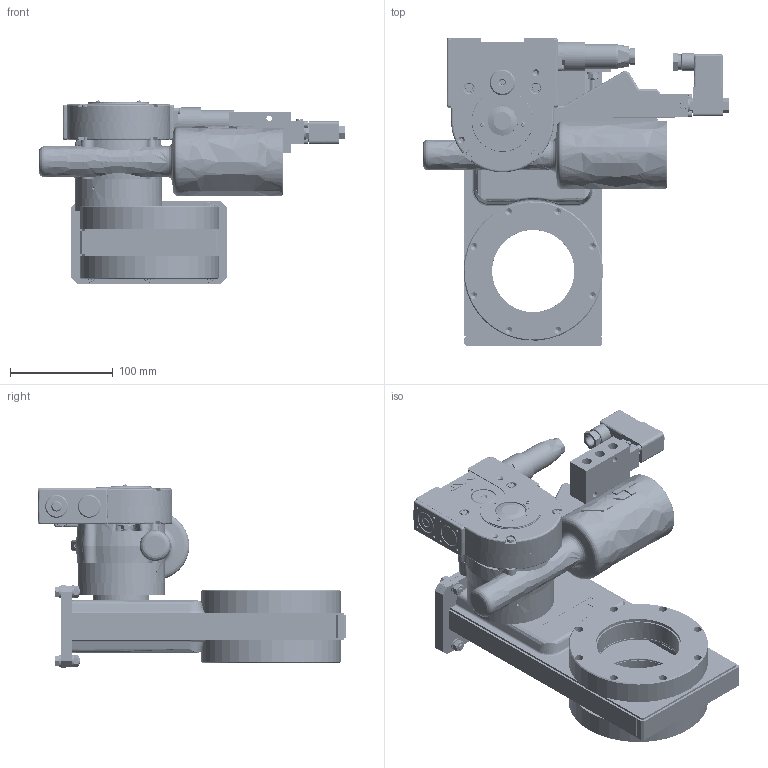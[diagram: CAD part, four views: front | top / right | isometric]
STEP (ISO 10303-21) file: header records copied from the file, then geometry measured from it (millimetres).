
FILE_DESCRIPTION((''),'2;1');
FILE_NAME('O:\MT\MT\Systeme\Cad\Datenexporte\www_vat_ch\250001.stp','2005-07-25T13:05:50',('User'),('SDRC'),'I-DEAS Master Series 9','UNIX','Yes');
FILE_SCHEMA(('CONFIG_CONTROL_DESIGN'));
Length unit declared in the file: millimetre
Assembly tree (76 placements, depth 0):
Bounding box: 298.2 x 300.13 x 178.45 mm (x, y, z)
Volume: 1559869 mm3; surface area: 626258.2 mm2
Topology: 101 solids, 101 shells, 2649 faces, 5987 edges, 3820 vertices
Faces by surface type: bspline 2649
Entity records: 66958 total; most frequent: CARTESIAN_POINT 34587, ORIENTED_EDGE 8626, EDGE_CURVE 4313, VERTEX_POINT 2765, EDGE_LOOP 2234, FACE_OUTER_BOUND 1858, ADVANCED_FACE 1858, QUASI_UNIFORM_CURVE 1373
